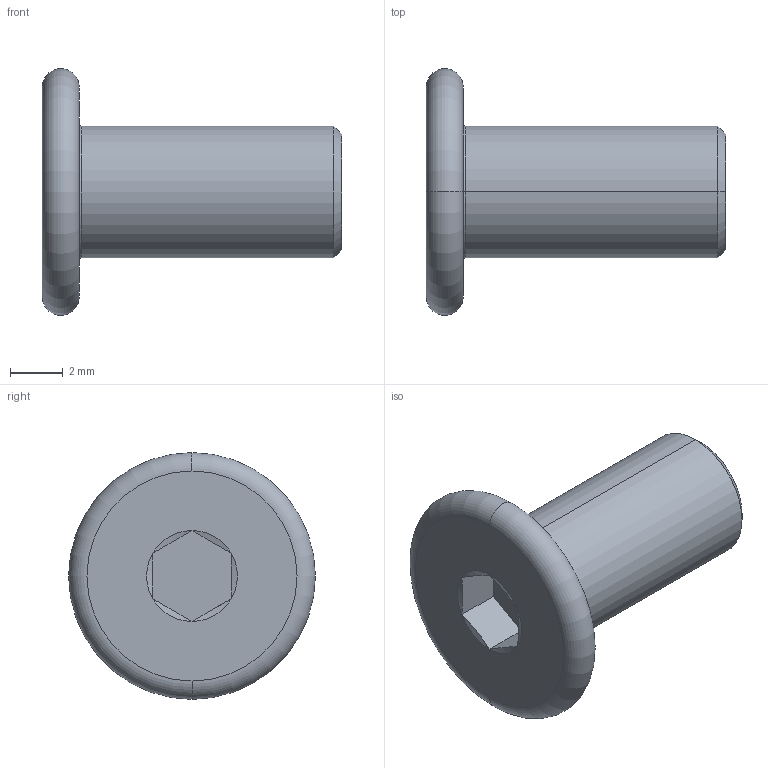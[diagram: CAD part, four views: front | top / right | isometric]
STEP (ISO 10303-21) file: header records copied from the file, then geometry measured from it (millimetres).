
FILE_DESCRIPTION (( 'STEP AP203' ), '1' );
FILE_NAME ('LGD-304M-M5x10.STEP', '2026-08-13T10:36:25', ( '' ), ( '' ), 'SwSTEP 2.0', 'SolidWorks 2020', '' );
FILE_SCHEMA (( 'CONFIG_CONTROL_DESIGN' ));
Length unit declared in the file: millimetre
Products named in the file (1): LGD-304M-M5x10
Bounding box: 11.4 x 9.4 x 9.4 mm (x, y, z)
Volume: 273.6 mm3; surface area: 332.8 mm2
Topology: 1 solids, 1 shells, 24 faces, 44 edges, 24 vertices
Faces by surface type: plane 10, cone 8, torus 4, cylinder 2
Entity records: 673 total; most frequent: CARTESIAN_POINT 119, DIRECTION 110, ORIENTED_EDGE 88, AXIS2_PLACEMENT_3D 47, EDGE_CURVE 44, EDGE_LOOP 26, FACE_OUTER_BOUND 24, VERTEX_POINT 24
